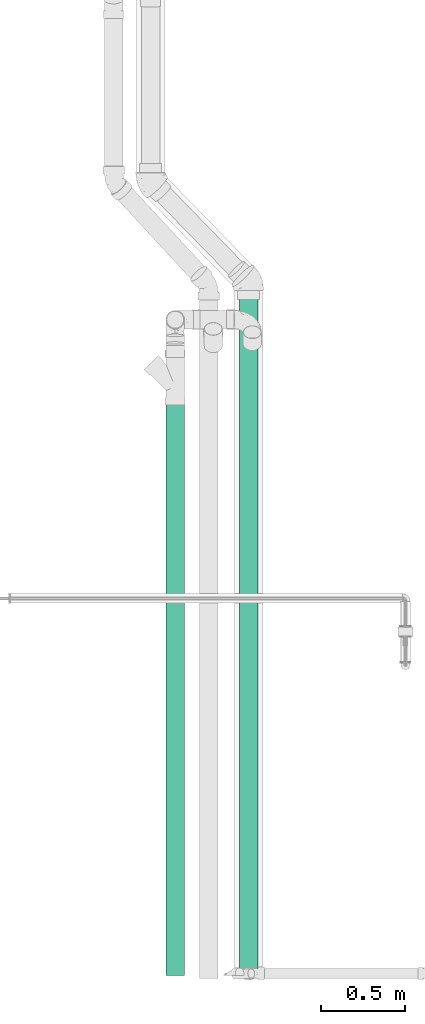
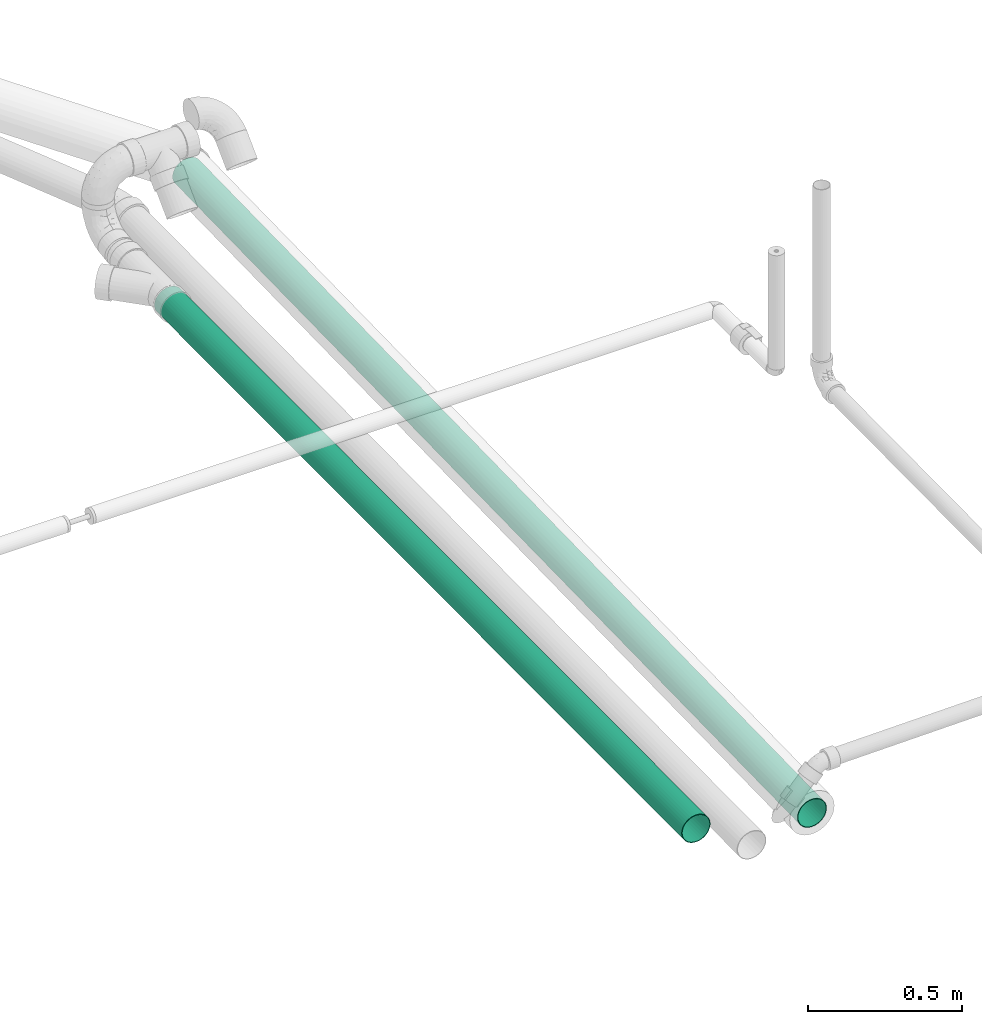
# One storey, part 48 of 78: 2 flow segments.
"""IFC2X3 building model written with IfcOpenShell, lengths in millimetres."""

from ifc_helpers import new_model, entity, si_unit, converted_unit, derived_unit, direction, frame, place, context, subcontext, project, spatial, faceted_brep, type_object, element, save


model = new_model("IFC2X3")

# Units and contexts
model_context = context("Model", 3, precision=0.01, world=frame((0.0, 4.29681676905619e-09, 0.0)), true_north=direction((4.01073788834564e-13, 1.0)))
plan_context = context("Plan", 3, precision=0.01, world=frame((0.0, 4.29681676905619e-09, 0.0)), true_north=direction((4.01073788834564e-13, 1.0)))
body_context = subcontext(model_context, "Body", "Model", "MODEL_VIEW")
ifc_project = project(units=[converted_unit("PLANEANGLEUNIT", "DEGREE", entity("IfcPositiveLengthMeasure", 0.0174532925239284), si_unit("PLANEANGLEUNIT", "RADIAN"), dimensions=[0, 0, 0, 0, 0, 0, 0]), si_unit("AREAUNIT", "SQUARE_METRE"), si_unit("LENGTHUNIT", "METRE", prefix="MILLI"), si_unit("MASSUNIT", "GRAM", prefix="KILO"), si_unit("POWERUNIT", "WATT"), si_unit("PRESSUREUNIT", "PASCAL"), si_unit("FORCEUNIT", "NEWTON", prefix="KILO"), si_unit("ELECTRICVOLTAGEUNIT", "VOLT"), si_unit("ELECTRICCURRENTUNIT", "AMPERE"), si_unit("THERMODYNAMICTEMPERATUREUNIT", "DEGREE_CELSIUS"), si_unit("TIMEUNIT", "SECOND"), si_unit("VOLUMEUNIT", "CUBIC_METRE"), derived_unit("LINEARVELOCITYUNIT", [(si_unit("LENGTHUNIT", "METRE"), 1), (si_unit("TIMEUNIT", "SECOND"), -1)]), derived_unit("VOLUMETRICFLOWRATEUNIT", [(si_unit("VOLUMEUNIT", "CUBIC_METRE"), 1), (si_unit("TIMEUNIT", "SECOND"), -1)]), derived_unit("THERMALTRANSMITTANCEUNIT", [(si_unit("POWERUNIT", "WATT"), 1), (si_unit("THERMODYNAMICTEMPERATUREUNIT", "KELVIN"), -1), (si_unit("AREAUNIT", "SQUARE_METRE"), -1)]), derived_unit("SOUNDPRESSUREUNIT", [(si_unit("PRESSUREUNIT", "PASCAL"), 1)])], contexts=[model_context, plan_context])

# Site, building, storey
site_placement = place(None, frame((0.0, -4.29681676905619e-09, 0.0), z_axis=(0.0, 0.0, 1.0), x_axis=(1.0, 0.0, 0.0)))
site = spatial("IfcSite", under=ifc_project, at=site_placement, Name="ENGM", CompositionType="ELEMENT")
building_placement = place(site_placement, frame((0.0, 4.29681676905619e-09, 0.0), z_axis=(0.0, 0.0, 1.0), x_axis=(1.0, 0.0, 0.0)))
building = spatial("IfcBuilding", under=site, at=building_placement, Name="TH", CompositionType="ELEMENT")
storey_placement = place(building_placement, frame((0.0, 0.0, 205200.0), z_axis=(0.0, 0.0, 1.0), x_axis=(1.0, 0.0, 0.0)))
storey = spatial("IfcBuildingStorey", under=building, at=storey_placement, Name="Nivå D + 1,2 m", CompositionType="ELEMENT", Elevation=205200.0)

# Flow segments
pipe_segment_type_1 = type_object("IfcPipeSegmentType", Name="SSt", PredefinedType="RIGIDSEGMENT")
flow_segment_1_placement = place(storey_placement, frame((903466.63217, 479468.23652, 4198.61418999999), z_axis=(0.0, -0.00499999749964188, 0.999987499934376), x_axis=(0.0, -0.999987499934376, -0.00499999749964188)))
element("IfcFlowSegment", 1, at=flow_segment_1_placement, inside=storey, type_object=pipe_segment_type_1, Name="SSt", context=body_context, shape_type="Brep", body=[
    faceted_brep([(3433.60251936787, 52.0, 0.0), (3433.64766843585, 51.2100031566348, -9.02970523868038), (0.0, 51.2100031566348, -9.02970523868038), (0.0, 52.0, 0.0), (3433.69144567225, 48.8640162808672, -17.7850474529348), (0.0, 48.8640162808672, -17.7850474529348), (3433.73252092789, 45.0333209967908, -26.0), (0.0, 45.0333209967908, -26.0), (3433.76964615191, 39.8343110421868, -33.4249557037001), (0.0, 39.8343110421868, -33.4249557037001), (3433.80169331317, 33.4249557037, -39.8343110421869), (0.0, 33.4249557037, -39.8343110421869), (3433.82768867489, 26.0, -45.0333209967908), (0.0, 26.0, -45.0333209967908), (3433.84684238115, 17.7850474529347, -48.8640162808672), (0.0, 17.7850474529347, -48.8640162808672), (3433.85857245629, 9.02970523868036, -51.2100031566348), (0.0, 9.02970523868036, -51.2100031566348), (3433.86252248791, -9.55224503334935e-15, -52.0), (0.0, -9.55224503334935e-15, -52.0), (3433.85857245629, -9.02970523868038, -51.2100031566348), (0.0, -9.02970523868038, -51.2100031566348), (3433.84684238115, -17.7850474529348, -48.8640162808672), (0.0, -17.7850474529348, -48.8640162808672), (3433.82768867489, -26.0, -45.0333209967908), (0.0, -26.0, -45.0333209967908), (3433.80169331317, -33.4249557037, -39.8343110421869), (0.0, -33.4249557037, -39.8343110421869), (3433.76964615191, -39.8343110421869, -33.4249557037), (0.0, -39.8343110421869, -33.4249557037), (3433.73252092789, -45.0333209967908, -26.0), (0.0, -45.0333209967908, -26.0), (3433.69144567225, -48.8640162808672, -17.7850474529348), (0.0, -48.8640162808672, -17.7850474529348), (3433.64766843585, -51.2100031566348, -9.02970523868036), (0.0, -51.2100031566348, -9.02970523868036), (3433.60251936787, -52.0, 6.36816335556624e-15), (0.0, -52.0, 6.36816335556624e-15), (3433.55737029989, -51.2100031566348, 9.0297052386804), (0.0, -51.2100031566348, 9.0297052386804), (3433.51359306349, -48.8640162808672, 17.7850474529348), (0.0, -48.8640162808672, 17.7850474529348), (3433.47251780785, -45.0333209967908, 26.0), (0.0, -45.0333209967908, 26.0), (3433.43539258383, -39.8343110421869, 33.4249557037), (0.0, -39.8343110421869, 33.4249557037), (3433.40334542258, -33.4249557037, 39.8343110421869), (0.0, -33.4249557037, 39.8343110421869), (3433.37735006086, -26.0, 45.0333209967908), (0.0, -26.0, 45.0333209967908), (3433.35819635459, -17.7850474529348, 48.8640162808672), (0.0, -17.7850474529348, 48.8640162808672), (3433.34646627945, -9.02970523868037, 51.2100031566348), (0.0, -9.02970523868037, 51.2100031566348), (3433.34251624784, 3.18408167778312e-15, 52.0), (0.0, 3.18408167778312e-15, 52.0), (3433.34646627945, 9.02970523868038, 51.2100031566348), (0.0, 9.02970523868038, 51.2100031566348), (3433.35819635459, 17.7850474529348, 48.8640162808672), (0.0, 17.7850474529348, 48.8640162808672), (3433.37735006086, 26.0, 45.0333209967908), (0.0, 26.0, 45.0333209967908), (3433.40334542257, 33.4249557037, 39.8343110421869), (0.0, 33.4249557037, 39.8343110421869), (3433.43539258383, 39.8343110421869, 33.4249557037), (0.0, 39.8343110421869, 33.4249557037), (3433.47251780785, 45.0333209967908, 26.0), (0.0, 45.0333209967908, 26.0), (3433.51359306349, 48.8640162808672, 17.7850474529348), (0.0, 48.8640162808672, 17.7850474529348), (3433.55737029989, 51.2100031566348, 9.02970523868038), (0.0, 51.2100031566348, 9.02970523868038), (3433.64940493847, 53.1796186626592, -9.37700159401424), (3433.60251936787, 54.0, 0.0), (0.0, 54.0, 0.0), (0.0, 53.1796186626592, -9.37700159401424), (3433.55563379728, 53.1796186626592, 9.37700159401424), (0.0, 53.1796186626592, 9.37700159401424), (3433.51017282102, 50.7434015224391, 18.4690877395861), (0.0, 50.7434015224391, 18.4690877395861), (3433.46751774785, 46.7653718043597, 27.0), (0.0, 46.7653718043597, 27.0), (3433.4289646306, 41.3663999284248, 34.7105309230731), (0.0, 41.3663999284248, 34.7105309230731), (3433.39568488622, 34.7105309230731, 41.3663999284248), (0.0, 34.7105309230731, 41.3663999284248), (3433.36868970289, 27.0, 46.7653718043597), (0.0, 27.0, 46.7653718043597), (3433.34879931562, 18.4690877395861, 50.7434015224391), (0.0, 18.4690877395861, 50.7434015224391), (3433.33661808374, 9.37700159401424, 53.1796186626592), (0.0, 9.37700159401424, 53.1796186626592), (3433.33251612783, 3.30654635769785e-15, 54.0), (0.0, 3.30654635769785e-15, 54.0), (3433.33661808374, -9.37700159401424, 53.1796186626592), (0.0, -9.37700159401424, 53.1796186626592), (3433.34879931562, -18.4690877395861, 50.7434015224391), (0.0, -18.4690877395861, 50.7434015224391), (3433.3686897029, -27.0, 46.7653718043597), (0.0, -27.0, 46.7653718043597), (3433.39568488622, -34.7105309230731, 41.3663999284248), (0.0, -34.7105309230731, 41.3663999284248), (3433.4289646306, -41.3663999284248, 34.7105309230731), (0.0, -41.3663999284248, 34.7105309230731), (3433.46751774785, -46.7653718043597, 27.0), (0.0, -46.7653718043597, 27.0), (3433.51017282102, -50.7434015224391, 18.4690877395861), (0.0, -50.7434015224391, 18.4690877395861), (3433.55563379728, -53.1796186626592, 9.37700159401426), (0.0, -53.1796186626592, 9.37700159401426), (3433.60251936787, -54.0, 6.61309271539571e-15), (0.0, -54.0, 6.61309271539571e-15), (3433.64940493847, -53.1796186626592, -9.37700159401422), (0.0, -53.1796186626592, -9.37700159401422), (3433.69486591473, -50.7434015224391, -18.4690877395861), (0.0, -50.7434015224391, -18.4690877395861), (3433.73752098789, -46.7653718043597, -27.0), (0.0, -46.7653718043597, -27.0), (3433.77607410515, -41.3663999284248, -34.7105309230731), (0.0, -41.3663999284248, -34.7105309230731), (3433.80935384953, -34.7105309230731, -41.3663999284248), (0.0, -34.7105309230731, -41.3663999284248), (3433.83634903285, -27.0, -46.7653718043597), (0.0, -27.0, -46.7653718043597), (3433.85623942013, -18.4690877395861, -50.743401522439), (0.0, -18.4690877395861, -50.743401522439), (3433.868420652, -9.37700159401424, -53.1796186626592), (0.0, -9.37700159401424, -53.1796186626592), (3433.87252260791, -9.91963907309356e-15, -54.0), (0.0, -9.91963907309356e-15, -54.0), (3433.868420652, 9.37700159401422, -53.1796186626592), (0.0, 9.37700159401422, -53.1796186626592), (3433.85623942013, 18.4690877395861, -50.7434015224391), (0.0, 18.4690877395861, -50.7434015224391), (3433.83634903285, 27.0, -46.7653718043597), (0.0, 27.0, -46.7653718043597), (3433.80935384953, 34.7105309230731, -41.3663999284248), (0.0, 34.7105309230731, -41.3663999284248), (3433.77607410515, 41.3663999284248, -34.7105309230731), (0.0, 41.3663999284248, -34.7105309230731), (3433.73752098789, 46.7653718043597, -27.0), (0.0, 46.7653718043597, -27.0), (3433.69486591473, 50.743401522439, -18.4690877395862), (0.0, 50.743401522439, -18.4690877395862)], [[[0, 1, 2, 3]], [[1, 4, 5, 2]], [[4, 6, 7, 5]], [[6, 8, 9, 7]], [[8, 10, 11, 9]], [[10, 12, 13, 11]], [[12, 14, 15, 13]], [[14, 16, 17, 15]], [[16, 18, 19, 17]], [[18, 20, 21, 19]], [[20, 22, 23, 21]], [[22, 24, 25, 23]], [[24, 26, 27, 25]], [[26, 28, 29, 27]], [[28, 30, 31, 29]], [[30, 32, 33, 31]], [[32, 34, 35, 33]], [[34, 36, 37, 35]], [[36, 38, 39, 37]], [[38, 40, 41, 39]], [[40, 42, 43, 41]], [[42, 44, 45, 43]], [[44, 46, 47, 45]], [[46, 48, 49, 47]], [[48, 50, 51, 49]], [[50, 52, 53, 51]], [[52, 54, 55, 53]], [[54, 56, 57, 55]], [[56, 58, 59, 57]], [[58, 60, 61, 59]], [[60, 62, 63, 61]], [[62, 64, 65, 63]], [[64, 66, 67, 65]], [[66, 68, 69, 67]], [[68, 70, 71, 69]], [[70, 0, 3, 71]], [[72, 73, 74, 75]], [[73, 76, 77, 74]], [[76, 78, 79, 77]], [[78, 80, 81, 79]], [[80, 82, 83, 81]], [[82, 84, 85, 83]], [[84, 86, 87, 85]], [[86, 88, 89, 87]], [[88, 90, 91, 89]], [[90, 92, 93, 91]], [[92, 94, 95, 93]], [[94, 96, 97, 95]], [[96, 98, 99, 97]], [[98, 100, 101, 99]], [[100, 102, 103, 101]], [[102, 104, 105, 103]], [[104, 106, 107, 105]], [[106, 108, 109, 107]], [[108, 110, 111, 109]], [[110, 112, 113, 111]], [[112, 114, 115, 113]], [[114, 116, 117, 115]], [[116, 118, 119, 117]], [[118, 120, 121, 119]], [[120, 122, 123, 121]], [[122, 124, 125, 123]], [[124, 126, 127, 125]], [[126, 128, 129, 127]], [[128, 130, 131, 129]], [[130, 132, 133, 131]], [[132, 134, 135, 133]], [[134, 136, 137, 135]], [[136, 138, 139, 137]], [[138, 140, 141, 139]], [[140, 142, 143, 141]], [[142, 72, 75, 143]], [[75, 74, 77, 79, 81, 83, 85, 87, 89, 91, 93, 95, 97, 99, 101, 103, 105, 107, 109, 111, 113, 115, 117, 119, 121, 123, 125, 127, 129, 131, 133, 135, 137, 139, 141, 143], [3, 2, 5, 7, 9, 11, 13, 15, 17, 19, 21, 23, 25, 27, 29, 31, 33, 35, 37, 39, 41, 43, 45, 47, 49, 51, 53, 55, 57, 59, 61, 63, 65, 67, 69, 71]], [[142, 140, 138, 136, 134, 132, 130, 128, 126, 124, 122, 120, 118, 116, 114, 112, 110, 108, 106, 104, 102, 100, 98, 96, 94, 92, 90, 88, 86, 84, 82, 80, 78, 76, 73, 72], [70, 68, 66, 64, 62, 60, 58, 56, 54, 52, 50, 48, 46, 44, 42, 40, 38, 36, 34, 32, 30, 28, 26, 24, 22, 20, 18, 16, 14, 12, 10, 8, 6, 4, 1, 0]]], orient=[[False], [False], [False], [False], [False], [False], [False], [False], [False], [False], [False], [False], [False], [False], [False], [False], [False], [False], [False], [False], [False], [False], [False], [False], [False], [False], [False], [False], [False], [False], [False], [False], [False], [False], [False], [False], [False], [False], [False], [False], [False], [False], [False], [False], [False], [False], [False], [False], [False], [False], [False], [False], [False], [False], [False], [False], [False], [False], [False], [False], [False], [False], [False], [False], [False], [False], [False], [False], [False], [False], [False], [False], [False, False], [False, False]]),
])
pipe_segment_type_2 = type_object("IfcPipeSegmentType", Name="SUPER MA", PredefinedType="RIGIDSEGMENT")
flow_segment_2_placement = place(storey_placement, frame((903902.88819, 480104.18208, 4172.07457), z_axis=(0.0, -0.0199960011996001, 0.999800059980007), x_axis=(0.0, -0.999800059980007, -0.0199960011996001)))
element("IfcFlowSegment", 2, at=flow_segment_2_placement, inside=storey, type_object=pipe_segment_type_2, Name="SUPER MA", context=body_context, shape_type="Brep", body=[
    faceted_brep([(4070.31897876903, 53.0, 0.0), (4070.50304583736, 52.194810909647, -9.20335341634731), (0.0, 52.194810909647, -9.20335341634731), (0.0, 53.0, 0.0), (4070.68152012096, 49.8037089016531, -18.1270675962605), (0.0, 49.8037089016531, -18.1270675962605), (4070.84897876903, 45.8993464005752, -26.5), (0.0, 45.8993464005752, -26.5), (4071.0003336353, 40.6003554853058, -34.0677433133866), (0.0, 40.6003554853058, -34.0677433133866), (4071.13098587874, 34.0677433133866, -40.6003554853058), (0.0, 34.0677433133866, -40.6003554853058), (4071.23696569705, 26.5, -45.8993464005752), (0.0, 26.5, -45.8993464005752), (4071.31505294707, 18.1270675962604, -49.8037089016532), (0.0, 18.1270675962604, -49.8037089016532), (4071.36287498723, 9.20335341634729, -52.194810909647), (0.0, 9.20335341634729, -52.194810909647), (4071.37897876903, -9.73594205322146e-15, -53.0), (0.0, -9.73594205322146e-15, -53.0), (4071.36287498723, -9.20335341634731, -52.194810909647), (0.0, -9.20335341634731, -52.194810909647), (4071.31505294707, -18.1270675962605, -49.8037089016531), (0.0, -18.1270675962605, -49.8037089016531), (4071.23696569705, -26.5, -45.8993464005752), (0.0, -26.5, -45.8993464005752), (4071.13098587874, -34.0677433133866, -40.6003554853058), (0.0, -34.0677433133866, -40.6003554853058), (4071.0003336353, -40.6003554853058, -34.0677433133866), (0.0, -40.6003554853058, -34.0677433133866), (4070.84897876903, -45.8993464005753, -26.5), (0.0, -45.8993464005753, -26.5), (4070.68152012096, -49.8037089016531, -18.1270675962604), (0.0, -49.8037089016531, -18.1270675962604), (4070.50304583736, -52.194810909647, -9.20335341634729), (0.0, -52.194810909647, -9.20335341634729), (4070.31897876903, -53.0, 6.49062803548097e-15), (0.0, -53.0, 6.49062803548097e-15), (4070.13491170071, -52.194810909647, 9.20335341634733), (0.0, -52.194810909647, 9.20335341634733), (4069.95643741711, -49.8037089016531, 18.1270675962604), (0.0, -49.8037089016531, 18.1270675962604), (4069.78897876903, -45.8993464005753, 26.5), (0.0, -45.8993464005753, 26.5), (4069.63762390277, -40.6003554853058, 34.0677433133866), (0.0, -40.6003554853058, 34.0677433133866), (4069.50697165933, -34.0677433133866, 40.6003554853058), (0.0, -34.0677433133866, 40.6003554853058), (4069.40099184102, -26.5, 45.8993464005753), (0.0, -26.5, 45.8993464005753), (4069.322904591, -18.1270675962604, 49.8037089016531), (0.0, -18.1270675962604, 49.8037089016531), (4069.27508255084, -9.20335341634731, 52.194810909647), (0.0, -9.20335341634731, 52.194810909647), (4069.25897876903, 3.24531401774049e-15, 53.0), (0.0, 3.24531401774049e-15, 53.0), (4069.27508255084, 9.20335341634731, 52.194810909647), (0.0, 9.20335341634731, 52.194810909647), (4069.322904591, 18.1270675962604, 49.8037089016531), (0.0, 18.1270675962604, 49.8037089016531), (4069.40099184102, 26.5, 45.8993464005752), (0.0, 26.5, 45.8993464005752), (4069.50697165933, 34.0677433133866, 40.6003554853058), (0.0, 34.0677433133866, 40.6003554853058), (4069.63762390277, 40.6003554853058, 34.0677433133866), (0.0, 40.6003554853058, 34.0677433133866), (4069.78897876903, 45.8993464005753, 26.5), (0.0, 45.8993464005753, 26.5), (4069.95643741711, 49.8037089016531, 18.1270675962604), (0.0, 49.8037089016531, 18.1270675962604), (4070.13491170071, 52.194810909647, 9.20335341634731), (0.0, 52.194810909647, 9.20335341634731), (4070.50999176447, 54.1644264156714, -9.55064977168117), (4070.31897876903, 55.0, 0.0), (0.0, 55.0, 0.0), (0.0, 54.1644264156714, -9.55064977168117), (4070.1279657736, 54.1644264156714, 9.55064977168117), (0.0, 54.1644264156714, 9.55064977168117), (4069.94275661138, 51.683094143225, 18.8111078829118), (0.0, 51.683094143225, 18.8111078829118), (4069.76897876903, 47.6313972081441, 27.5), (0.0, 47.6313972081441, 27.5), (4069.61191239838, 42.1324443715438, 35.3533185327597), (0.0, 42.1324443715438, 35.3533185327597), (4069.4763298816, 35.3533185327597, 42.1324443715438), (0.0, 35.3533185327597, 42.1324443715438), (4069.36635082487, 27.5, 47.6313972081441), (0.0, 27.5, 47.6313972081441), (4069.28531688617, 18.8111078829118, 51.683094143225), (0.0, 18.8111078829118, 51.683094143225), (4069.23569024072, 9.55064977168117, 54.1644264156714), (0.0, 9.55064977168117, 54.1644264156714), (4069.21897876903, 3.36777869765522e-15, 55.0), (0.0, 3.36777869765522e-15, 55.0), (4069.23569024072, -9.55064977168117, 54.1644264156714), (0.0, -9.55064977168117, 54.1644264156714), (4069.28531688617, -18.8111078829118, 51.683094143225), (0.0, -18.8111078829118, 51.683094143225), (4069.36635082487, -27.5, 47.6313972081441), (0.0, -27.5, 47.6313972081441), (4069.4763298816, -35.3533185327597, 42.1324443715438), (0.0, -35.3533185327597, 42.1324443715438), (4069.61191239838, -42.1324443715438, 35.3533185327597), (0.0, -42.1324443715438, 35.3533185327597), (4069.76897876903, -47.6313972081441, 27.5), (0.0, -47.6313972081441, 27.5), (4069.94275661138, -51.683094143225, 18.8111078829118), (0.0, -51.683094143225, 18.8111078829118), (4070.1279657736, -54.1644264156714, 9.55064977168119), (0.0, -54.1644264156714, 9.55064977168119), (4070.31897876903, -55.0, 6.73555739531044e-15), (0.0, -55.0, 6.73555739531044e-15), (4070.50999176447, -54.1644264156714, -9.55064977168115), (0.0, -54.1644264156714, -9.55064977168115), (4070.69520092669, -51.683094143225, -18.8111078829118), (0.0, -51.683094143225, -18.8111078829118), (4070.86897876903, -47.6313972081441, -27.5), (0.0, -47.6313972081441, -27.5), (4071.02604513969, -42.1324443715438, -35.3533185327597), (0.0, -42.1324443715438, -35.3533185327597), (4071.16162765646, -35.3533185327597, -42.1324443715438), (0.0, -35.3533185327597, -42.1324443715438), (4071.2716067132, -27.5, -47.6313972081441), (0.0, -27.5, -47.6313972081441), (4071.3526406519, -18.8111078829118, -51.6830941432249), (0.0, -18.8111078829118, -51.6830941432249), (4071.40226729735, -9.55064977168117, -54.1644264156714), (0.0, -9.55064977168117, -54.1644264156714), (4071.41897876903, -1.01033360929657e-14, -55.0), (0.0, -1.01033360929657e-14, -55.0), (4071.40226729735, 9.55064977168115, -54.1644264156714), (0.0, 9.55064977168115, -54.1644264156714), (4071.3526406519, 18.8111078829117, -51.683094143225), (0.0, 18.8111078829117, -51.683094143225), (4071.2716067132, 27.5, -47.6313972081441), (0.0, 27.5, -47.6313972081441), (4071.16162765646, 35.3533185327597, -42.1324443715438), (0.0, 35.3533185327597, -42.1324443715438), (4071.02604513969, 42.1324443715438, -35.3533185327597), (0.0, 42.1324443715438, -35.3533185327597), (4070.86897876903, 47.6313972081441, -27.5), (0.0, 47.6313972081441, -27.5), (4070.69520092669, 51.6830941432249, -18.8111078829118), (0.0, 51.6830941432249, -18.8111078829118)], [[[0, 1, 2, 3]], [[1, 4, 5, 2]], [[4, 6, 7, 5]], [[6, 8, 9, 7]], [[8, 10, 11, 9]], [[10, 12, 13, 11]], [[12, 14, 15, 13]], [[14, 16, 17, 15]], [[16, 18, 19, 17]], [[18, 20, 21, 19]], [[20, 22, 23, 21]], [[22, 24, 25, 23]], [[24, 26, 27, 25]], [[26, 28, 29, 27]], [[28, 30, 31, 29]], [[30, 32, 33, 31]], [[32, 34, 35, 33]], [[34, 36, 37, 35]], [[36, 38, 39, 37]], [[38, 40, 41, 39]], [[40, 42, 43, 41]], [[42, 44, 45, 43]], [[44, 46, 47, 45]], [[46, 48, 49, 47]], [[48, 50, 51, 49]], [[50, 52, 53, 51]], [[52, 54, 55, 53]], [[54, 56, 57, 55]], [[56, 58, 59, 57]], [[58, 60, 61, 59]], [[60, 62, 63, 61]], [[62, 64, 65, 63]], [[64, 66, 67, 65]], [[66, 68, 69, 67]], [[68, 70, 71, 69]], [[70, 0, 3, 71]], [[72, 73, 74, 75]], [[73, 76, 77, 74]], [[76, 78, 79, 77]], [[78, 80, 81, 79]], [[80, 82, 83, 81]], [[82, 84, 85, 83]], [[84, 86, 87, 85]], [[86, 88, 89, 87]], [[88, 90, 91, 89]], [[90, 92, 93, 91]], [[92, 94, 95, 93]], [[94, 96, 97, 95]], [[96, 98, 99, 97]], [[98, 100, 101, 99]], [[100, 102, 103, 101]], [[102, 104, 105, 103]], [[104, 106, 107, 105]], [[106, 108, 109, 107]], [[108, 110, 111, 109]], [[110, 112, 113, 111]], [[112, 114, 115, 113]], [[114, 116, 117, 115]], [[116, 118, 119, 117]], [[118, 120, 121, 119]], [[120, 122, 123, 121]], [[122, 124, 125, 123]], [[124, 126, 127, 125]], [[126, 128, 129, 127]], [[128, 130, 131, 129]], [[130, 132, 133, 131]], [[132, 134, 135, 133]], [[134, 136, 137, 135]], [[136, 138, 139, 137]], [[138, 140, 141, 139]], [[140, 142, 143, 141]], [[142, 72, 75, 143]], [[75, 74, 77, 79, 81, 83, 85, 87, 89, 91, 93, 95, 97, 99, 101, 103, 105, 107, 109, 111, 113, 115, 117, 119, 121, 123, 125, 127, 129, 131, 133, 135, 137, 139, 141, 143], [3, 2, 5, 7, 9, 11, 13, 15, 17, 19, 21, 23, 25, 27, 29, 31, 33, 35, 37, 39, 41, 43, 45, 47, 49, 51, 53, 55, 57, 59, 61, 63, 65, 67, 69, 71]], [[142, 140, 138, 136, 134, 132, 130, 128, 126, 124, 122, 120, 118, 116, 114, 112, 110, 108, 106, 104, 102, 100, 98, 96, 94, 92, 90, 88, 86, 84, 82, 80, 78, 76, 73, 72], [70, 68, 66, 64, 62, 60, 58, 56, 54, 52, 50, 48, 46, 44, 42, 40, 38, 36, 34, 32, 30, 28, 26, 24, 22, 20, 18, 16, 14, 12, 10, 8, 6, 4, 1, 0]]], orient=[[False], [False], [False], [False], [False], [False], [False], [False], [False], [False], [False], [False], [False], [False], [False], [False], [False], [False], [False], [False], [False], [False], [False], [False], [False], [False], [False], [False], [False], [False], [False], [False], [False], [False], [False], [False], [False], [False], [False], [False], [False], [False], [False], [False], [False], [False], [False], [False], [False], [False], [False], [False], [False], [False], [False], [False], [False], [False], [False], [False], [False], [False], [False], [False], [False], [False], [False], [False], [False], [False], [False], [False], [False, False], [False, False]]),
])

save(model, "model.ifc")
